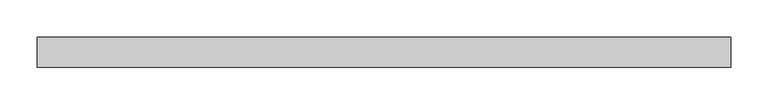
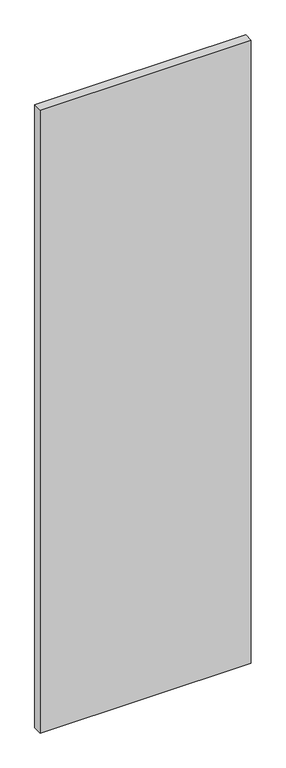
"""IFC4 building model written with IfcOpenShell, lengths in millimetres: plate geometry, Lod 200 Ritmica 930 Vertical : Azuro."""

from ifc_helpers import new_model, si_unit, origin, origin_with_axes, place, context, project, spatial, polyline, outline, extrude, source, transform, mapped, element, save


def plate_08428244(model_context):
    return source(origin(), model_context, "Body", "SweptSolid", [
        extrude(outline(polyline([(465.0, -40.0), (-465.0, -40.0), (-465.0, 0.0), (465.0, 0.0), (465.0, -40.0)])), origin_with_axes(), (0.0, 0.0, 1.0), 2900.0),
    ])


if __name__ == "__main__":
    model = new_model("IFC4")
    model_context = context("Model", 3, world=origin())
    ifc_project = project(units=[si_unit("LENGTHUNIT", "METRE", prefix="MILLI")], contexts=[model_context])
    site = spatial("IfcSite", under=ifc_project)
    building = spatial("IfcBuilding", under=site)
    placement = place(None, origin())
    plate_shape = plate_08428244(model_context)
    element("IfcPlate", 1, ObjectType="Lod 200 Ritmica 930 Vertical : Azuro", at=placement, inside=building, context=model_context, shape_type="MappedRepresentation", body=[
        mapped(plate_shape, transform((0.0, 0.0, 0.0), x_axis=(1.0, 0.0, 0.0), y_axis=(0.0, 1.0, 0.0), z_axis=(0.0, 0.0, 1.0))),
    ])
    save(model, "model.ifc")
